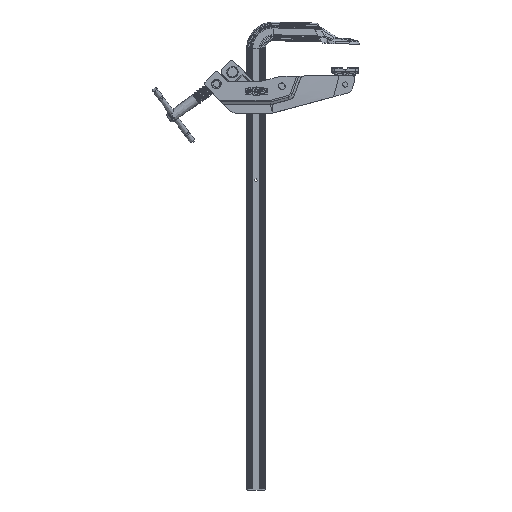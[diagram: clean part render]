
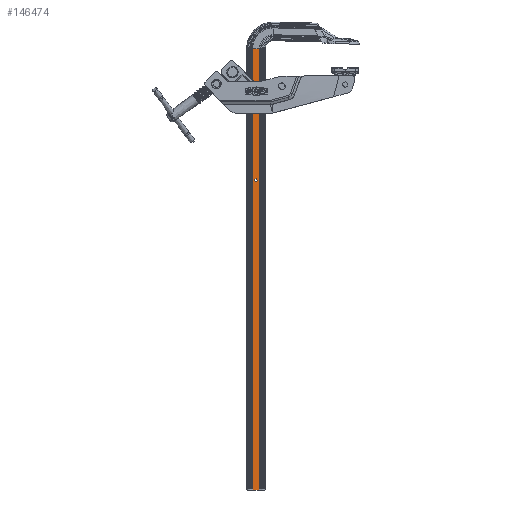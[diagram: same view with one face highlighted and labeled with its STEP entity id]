
A CAD part, front view. The second image highlights one B-rep face of the part: STEP entity #146474.
In plain terms, the highlighted free-form (B-spline) face has degree [2, 1] with [3, 2] control points.
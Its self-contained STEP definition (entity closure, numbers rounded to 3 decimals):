
#143436=CARTESIAN_POINT('',(5.124,-4.435,-582.));
#143437=VERTEX_POINT('',#143436);
#143444=CARTESIAN_POINT('',(-5.124,-4.435,-582.));
#143445=VERTEX_POINT('',#143444);
#143446=CARTESIAN_POINT('',(5.124,-4.435,-582.));
#143447=CARTESIAN_POINT('',(0.,-4.26,-582.));
#143448=CARTESIAN_POINT('',(-5.124,-4.435,-582.));
#143449=(BOUNDED_CURVE()B_SPLINE_CURVE(2,(#143446,#143447,#143448),.CIRCULAR_ARC.,.F.,.U.)B_SPLINE_CURVE_WITH_KNOTS((3,3),(0.,1.),.UNSPECIFIED.)CURVE()GEOMETRIC_REPRESENTATION_ITEM()RATIONAL_B_SPLINE_CURVE((1.,0.999,1.))REPRESENTATION_ITEM(''));
#143450=EDGE_CURVE('',#143437,#143445,#143449,.T.);
#143781=CARTESIAN_POINT('',(5.124,-4.435,76.));
#143782=VERTEX_POINT('',#143781);
#143858=CARTESIAN_POINT('',(-5.124,-4.435,76.));
#143859=VERTEX_POINT('',#143858);
#143868=CARTESIAN_POINT('',(-5.124,-4.435,76.));
#143869=CARTESIAN_POINT('',(0.,-4.26,76.));
#143870=CARTESIAN_POINT('',(5.124,-4.435,76.));
#143871=(BOUNDED_CURVE()B_SPLINE_CURVE(2,(#143868,#143869,#143870),.UNSPECIFIED.,.F.,.U.)B_SPLINE_CURVE_WITH_KNOTS((3,3),(0.,1.),.UNSPECIFIED.)CURVE()GEOMETRIC_REPRESENTATION_ITEM()RATIONAL_B_SPLINE_CURVE((1.,0.999,1.))REPRESENTATION_ITEM(''));
#143872=EDGE_CURVE('',#143859,#143782,#143871,.T.);
#146177=CARTESIAN_POINT('',(5.124,-4.435,76.));
#146178=CARTESIAN_POINT('',(5.124,-4.435,-582.));
#146179=B_SPLINE_CURVE_WITH_KNOTS('',1,(#146177,#146178),.POLYLINE_FORM.,.F.,.U.,(2,2),(0.,1.),.UNSPECIFIED.);
#146180=EDGE_CURVE('',#143782,#143437,#146179,.T.);
#146436=CARTESIAN_POINT('',(-5.124,-4.435,-582.));
#146437=CARTESIAN_POINT('',(-5.124,-4.435,76.));
#146438=B_SPLINE_CURVE_WITH_KNOTS('',1,(#146436,#146437),.POLYLINE_FORM.,.F.,.U.,(2,2),(0.,1.),.UNSPECIFIED.);
#146439=EDGE_CURVE('',#143445,#143859,#146438,.T.);
#146444=CARTESIAN_POINT('',(5.124,-4.435,76.));
#146445=CARTESIAN_POINT('',(5.124,-4.435,-1482.));
#146446=CARTESIAN_POINT('',(0.,-4.26,76.));
#146447=CARTESIAN_POINT('',(0.,-4.26,-1482.));
#146448=CARTESIAN_POINT('',(-5.124,-4.435,76.));
#146449=CARTESIAN_POINT('',(-5.124,-4.435,-1482.));
#146450=(BOUNDED_SURFACE()B_SPLINE_SURFACE(2,1,((#146444,#146445),(#146446,#146447),(#146448,#146449)),.CYLINDRICAL_SURF.,.F.,.F.,.U.)B_SPLINE_SURFACE_WITH_KNOTS((3,3),(2,2),(0.,1.),(0.,7.49),.UNSPECIFIED.)GEOMETRIC_REPRESENTATION_ITEM()RATIONAL_B_SPLINE_SURFACE(((1.,1.),(0.999,0.999),(1.,1.)))REPRESENTATION_ITEM('')SURFACE());
#146451=ORIENTED_EDGE('',*,*,#143872,.F.);
#146452=ORIENTED_EDGE('',*,*,#146439,.F.);
#146453=ORIENTED_EDGE('',*,*,#143450,.F.);
#146454=ORIENTED_EDGE('',*,*,#146180,.F.);
#146455=EDGE_LOOP('',(#146451,#146452,#146453,#146454));
#146456=FACE_OUTER_BOUND('',#146455,.T.);
#146457=CARTESIAN_POINT('',(-2.193,-4.363,-119.945));
#146458=VERTEX_POINT('',#146457);
#146459=CARTESIAN_POINT('',(-2.193,-4.363,-119.945));
#146460=CARTESIAN_POINT('',(-2.159,-4.363,-118.641));
#146461=CARTESIAN_POINT('',(-0.959,-4.345,-117.677));
#146462=CARTESIAN_POINT('',(1.616,-4.35,-118.209));
#146463=CARTESIAN_POINT('',(2.352,-4.365,-119.574));
#146464=CARTESIAN_POINT('',(1.348,-4.353,-122.015));
#146465=CARTESIAN_POINT('',(-0.131,-4.343,-122.481));
#146466=CARTESIAN_POINT('',(-1.851,-4.357,-121.363));
#146467=CARTESIAN_POINT('',(-2.212,-4.364,-120.676));
#146468=CARTESIAN_POINT('',(-2.193,-4.363,-119.945));
#146469=B_SPLINE_CURVE_WITH_KNOTS('',3,(#146459,#146460,#146461,#146462,#146463,#146464,#146465,#146466,#146467,#146468),.UNSPECIFIED.,.T.,.U.,(4,2,2,2,4),(0.,0.283,0.565,0.845,1.),.UNSPECIFIED.);
#146470=EDGE_CURVE('',#146458,#146458,#146469,.T.);
#146471=ORIENTED_EDGE('',*,*,#146470,.T.);
#146472=EDGE_LOOP('',(#146471));
#146473=FACE_BOUND('',#146472,.T.);
#146474=ADVANCED_FACE('',(#146456,#146473),#146450,.T.);
